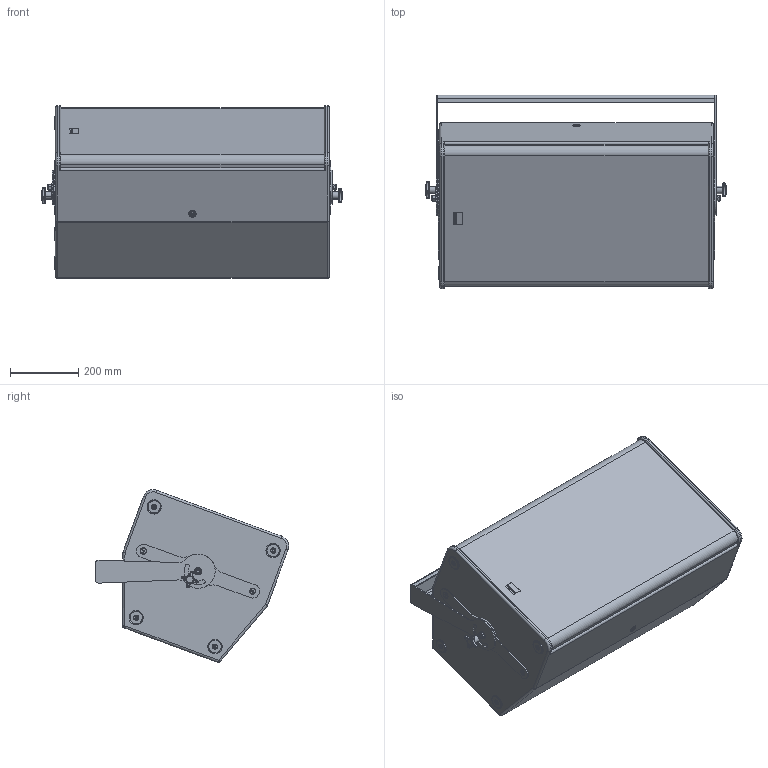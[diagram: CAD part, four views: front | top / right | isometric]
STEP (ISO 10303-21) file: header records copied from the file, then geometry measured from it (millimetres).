
FILE_DESCRIPTION (( 'STEP AP203' ), '1' );
FILE_NAME ('SEEBURG_F8_Bracket_hor.STEP', '2014-08-19T12:59:51', ( 'Michael Anter' ), ( 'SEEBURG acoustic line GmbH' ), 'SwSTEP 2.0', 'SolidWorks 2009', '' );
FILE_SCHEMA (( 'CONFIG_CONTROL_DESIGN' ));
Length unit declared in the file: millimetre
Products named in the file (12): SEEBURG_F8_Bracket_hor; F8; F8-Querbügel_Adapter-rechts; F8_Querbügel; F8-Querbügel_Adapter_links; F8_Querbügel_Adapter; prevailing torque nut flange insert-2_DIN_DIN EN 1663 - M10 - S; kreuzgriff_m10; Imported; Imported1; Socket Countersunk Head Screw_DIN_DIN 7991 - M10 x 20 --- 20S; Socket Countersunk Head Screw_DIN_DIN 7991 - M8 x 20 --- 20S
Assembly tree (20 placements, depth 3):
  SEEBURG_F8_Bracket_hor
    Socket Countersunk Head Screw_DIN_DIN 7991 - M8 x 20 --- 20S  x3
    F8-Querbügel_Adapter-rechts
      Socket Countersunk Head Screw_DIN_DIN 7991 - M10 x 20 --- 20S  x2
      F8_Querbügel_Adapter
    prevailing torque nut flange insert-2_DIN_DIN EN 1663 - M10 - S  x2
    kreuzgriff_m10  x2
      Imported1
      Imported
    F8_Querbügel
    F8
    F8-Querbügel_Adapter_links
      Socket Countersunk Head Screw_DIN_DIN 7991 - M10 x 20 --- 20S  x2
      F8_Querbügel_Adapter
    Socket Countersunk Head Screw_DIN_DIN 7991 - M10 x 20 --- 20S
Bounding box: 877.5 x 564.95 x 504.74 mm (x, y, z)
Volume: 28733607.7 mm3; surface area: 3514912.3 mm2
Topology: 39 solids, 39 shells, 1637 faces, 4053 edges, 2495 vertices
Faces by surface type: cylinder 613, cone 512, plane 356, torus 108, bspline 48
Entity records: 33366 total; most frequent: CARTESIAN_POINT 8874, DIRECTION 5189, ORIENTED_EDGE 4624, EDGE_CURVE 2312, AXIS2_PLACEMENT_3D 2062, VERTEX_POINT 1451, CIRCLE 1131, LINE 1065
